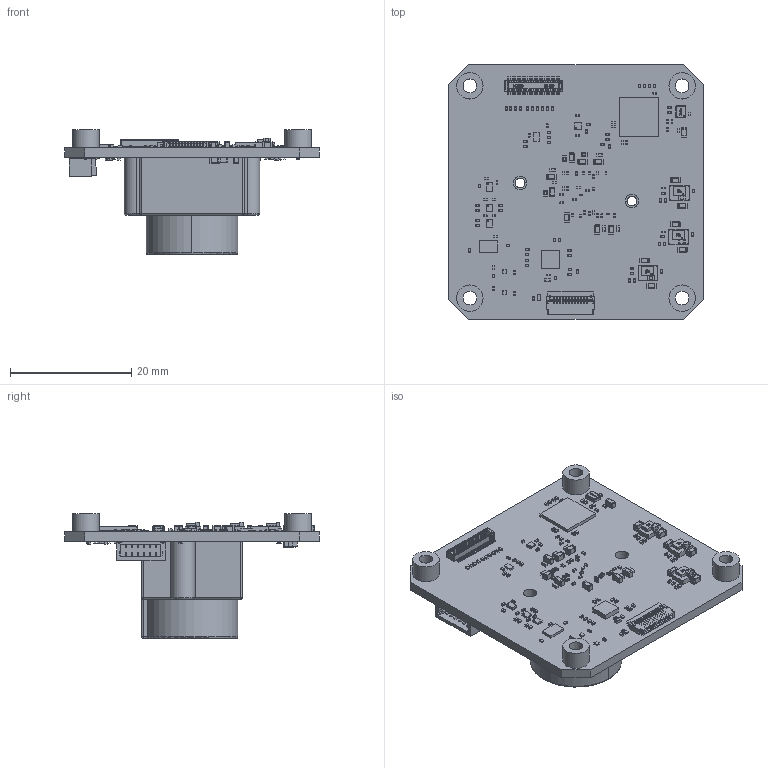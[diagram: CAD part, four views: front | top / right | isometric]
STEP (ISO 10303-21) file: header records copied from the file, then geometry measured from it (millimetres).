
FILE_DESCRIPTION(('Open CASCADE Model'),'2;1');
FILE_NAME('Open CASCADE Shape Model','2025-05-14T08:55:24',('Author'),( 'Open CASCADE'),'Open CASCADE STEP processor 7.5','Open CASCADE 7.5' ,'Unknown');
FILE_SCHEMA(('AUTOMOTIVE_DESIGN { 1 0 10303 214 1 1 1 1 }'));
Length unit declared in the file: millimetre
Products named in the file (343): PCB; Board; Open CASCADE STEP translator 7.5 2.1.1; R326; 6384963488; Mid Body; Terminal; Open CASCADE STEP translator 7.5 14.2.1; Mark; R103; 6384964048; Open CASCADE STEP translator 7.5 12.2.1; R426; 6384962848; R425; R424; 6384965728; R423; R102; R101; R215; 6384964768; R214; C135; 6384962608; Open CASCADE STEP translator 6.8 6.1.1; Open CASCADE STEP translator 6.8 6.1.2; Mid_Body; Open CASCADE STEP translator 6.8 6.2.1; C134; J400; Conn_Hirose_DF40C-40DP-0_4V_51_eec; 1; 2; Open CASCADE STEP translator 7.5 2.14.1.2.1; Open CASCADE STEP translator 7.5 2.14.1.2.2; 3; Hirose Electric; MP402; 9774030943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
Assembly tree (546 placements, depth 5):
  PCB
    Board
      Open CASCADE STEP translator 7.5 2.1.1
    R326
      6384963488
        Mid Body
        Terminal  x2
          Open CASCADE STEP translator 7.5 14.2.1
        Mark
    R103
      6384964048
        Mid Body
        Terminal  x2
          Open CASCADE STEP translator 7.5 12.2.1
        Mark
    R426
      6384962848
        Mid Body
        Terminal  x2
          Open CASCADE STEP translator 7.5 14.2.1
        Mark
    R425
      6384963488
        Mid Body
        Terminal  x2
          Open CASCADE STEP translator 7.5 14.2.1
        Mark
    R424
      6384965728
        Mid Body
        Terminal  x2
          Open CASCADE STEP translator 7.5 14.2.1
        Mark
    R423
      6384965728
        Mid Body
        Terminal  x2
          Open CASCADE STEP translator 7.5 14.2.1
        Mark
    R102
      6384965728
        Mid Body
        Terminal  x2
          Open CASCADE STEP translator 7.5 14.2.1
        Mark
    R101
      6384965728
        Mid Body
        Terminal  x2
          Open CASCADE STEP translator 7.5 14.2.1
        Mark
    R215
      6384964768
        Mid Body
        Terminal  x2
          Open CASCADE STEP translator 7.5 14.2.1
        Mark
    R214
      6384962848
        Mid Body
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Bounding box: 42 x 42 x 20.6 mm (x, y, z)
Volume: 4866.5 mm3; surface area: 7953.6 mm2
Topology: 922 solids, 922 shells, 12273 faces, 29012 edges, 18148 vertices
Faces by surface type: plane 8376, cylinder 2889, sphere 918, bspline 67, torus 17, cone 6
Full cylindrical faces by diameter (mm): 0.2 x4, 2.2 x2, 2.25 x4, 2.8 x4, 3 x4, 4.35 x4
Entity records: 131067 total; most frequent: CARTESIAN_POINT 23235, DIRECTION 19283, ORIENTED_EDGE 18938, EDGE_CURVE 9469, LINE 7923, VECTOR 7923, VERTEX_POINT 6168, AXIS2_PLACEMENT_3D 5680
